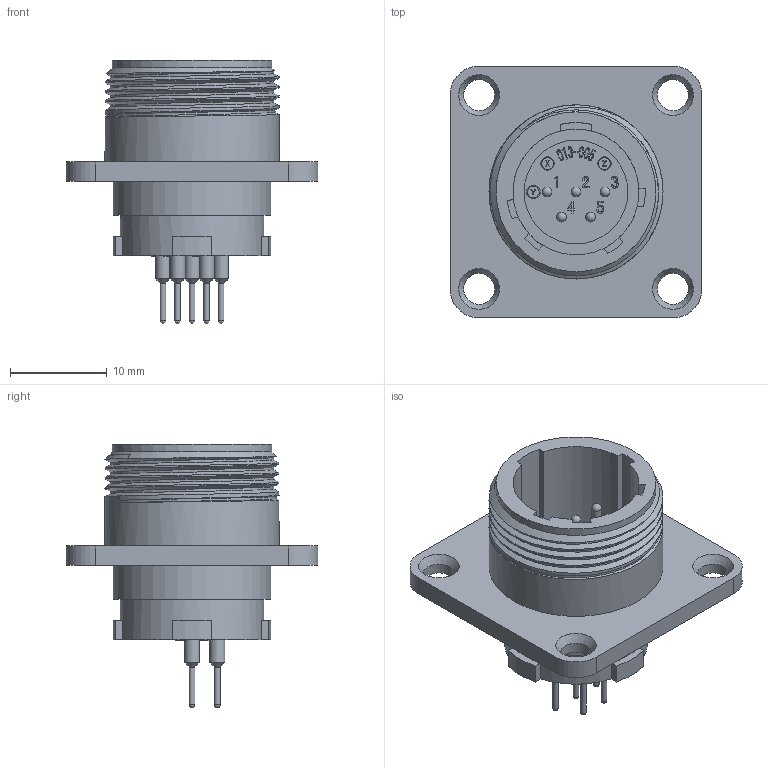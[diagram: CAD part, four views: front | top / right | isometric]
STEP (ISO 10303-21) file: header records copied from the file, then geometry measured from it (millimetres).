
FILE_DESCRIPTION (( 'STEP AP203' ), '1' );
FILE_NAME ('JMR1305MD-D.STEP', '2021-11-05T07:44:37', ( '' ), ( '' ), 'SwSTEP 2.0', 'SolidWorks 2018', '' );
FILE_SCHEMA (( 'CONFIG_CONTROL_DESIGN' ));
Length unit declared in the file: millimetre
Products named in the file (1): JMR1305MD-D
Bounding box: 26 x 26 x 27.2 mm (x, y, z)
Volume: 3521.9 mm3; surface area: 3638.6 mm2
Topology: 1 solids, 1 shells, 496 faces, 1353 edges, 887 vertices
Faces by surface type: plane 212, bspline 209, cylinder 54, cone 11, sphere 10
Full cylindrical faces by diameter (mm): 0.6 x5, 1 x5, 1.2 x3, 1.4 x3, 1.55 x5, 3.2 x4, 10.3 x1, 10.7 x1, 13 x1, 14.8 x1, 16.3 x1, 16.5 x1, 17.96 x4
Entity records: 22742 total; most frequent: CARTESIAN_POINT 11964, ORIENTED_EDGE 2516, DIRECTION 1530, EDGE_CURVE 1258, VERTEX_POINT 859, LINE 716, VECTOR 716, EDGE_LOOP 589
